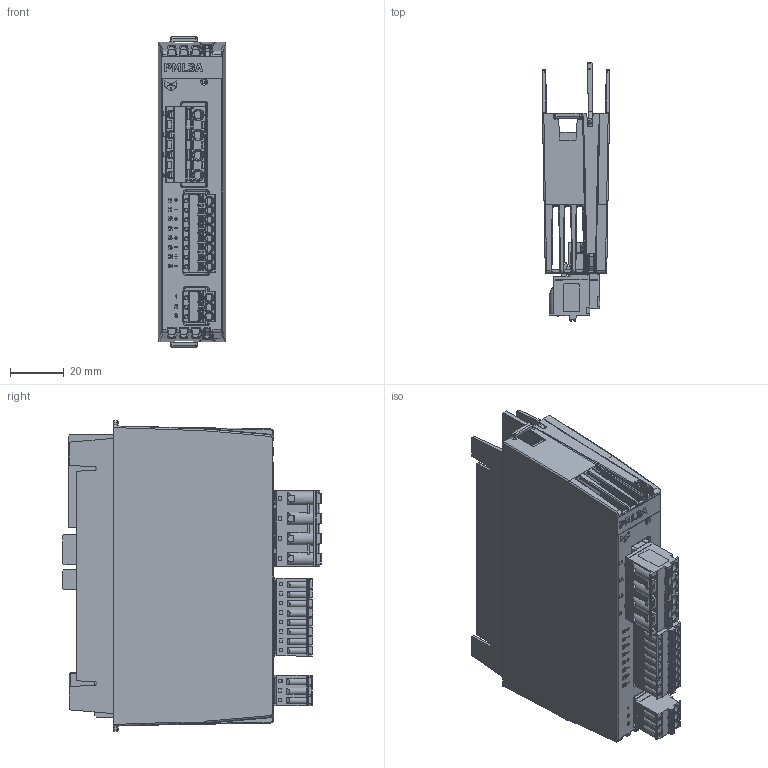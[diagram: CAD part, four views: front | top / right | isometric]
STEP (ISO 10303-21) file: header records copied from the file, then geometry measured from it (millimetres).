
FILE_DESCRIPTION(/* description */ (''),/* implementation_level */ '2;1');
FILE_NAME(/* name */ 'C:\Users\Public\Documents\Autodesk\Inventor 2023\PML3A_Simplified.stp',/* time_stamp */ '2024-10-18T22:42:26+02:00',/* author */ ('shoma'),/* organization */ (''),/* preprocessor_version */ 'ST-DEVELOPER v19',/* originating_system */ 'Autodesk Inventor 2023',/* authorisation */ '');
FILE_SCHEMA (('AUTOMOTIVE_DESIGN { 1 0 10303 214 3 1 1 }'));
Products named in the file (1): PML3A_Simplified
Bounding box: 24.95 x 96.19 x 115.5 mm (x, y, z)
Volume: 113438.3 mm3; surface area: 62563.1 mm2
Topology: 1 solids, 34 shells, 5351 faces, 14392 edges, 9208 vertices
Faces by surface type: plane 3933, cylinder 1009, bspline 237, cone 123, torus 26, sphere 23
Full cylindrical faces by diameter (mm): 0.296 x2, 0.434 x1, 0.457 x2, 1.17 x11, 1.25 x11, 1.3 x11, 1.4 x4, 1.5 x4, 1.6 x7, 2.5 x1, 2.8 x3, 3 x4, 3.1 x11, 4 x4
Entity records: 177360 total; most frequent: CARTESIAN_POINT 37148, ORIENTED_EDGE 28690, DIRECTION 27066, EDGE_CURVE 14345, LINE 11156, VECTOR 11156, VERTEX_POINT 9204, AXIS2_PLACEMENT_3D 7955
